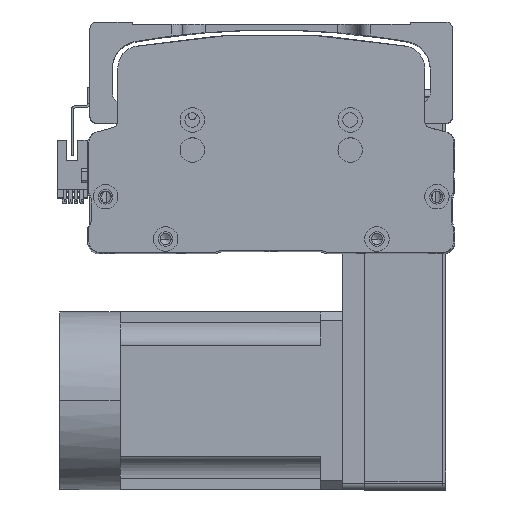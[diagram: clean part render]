
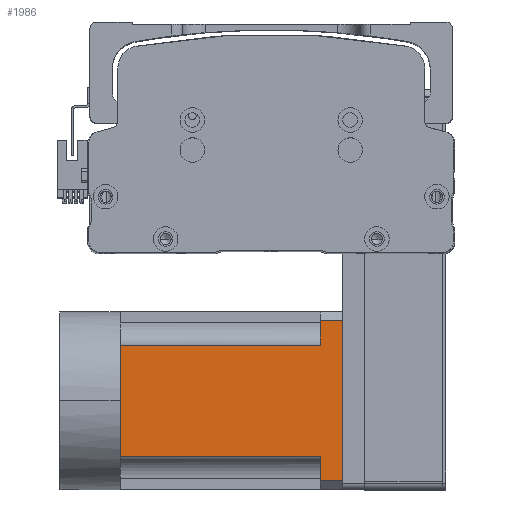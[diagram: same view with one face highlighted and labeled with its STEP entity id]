
A CAD part, top view. The second image highlights one B-rep face of the part: STEP entity #1986.
In plain terms, the highlighted planar face has unit normal (0, 0, 1) as drawn and (0, 0, -1) by its records, which use the part's own axes.
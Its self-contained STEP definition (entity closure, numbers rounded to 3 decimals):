
#1986 = ADVANCED_FACE ( 'NONE', ( #49239 ), #44260, .T. ) ;
#2054 = DIRECTION ( 'NONE',  ( -1., 0., 0. ) ) ;
#2488 = VERTEX_POINT ( 'NONE', #36548 ) ;
#2693 = CARTESIAN_POINT ( 'NONE',  ( 36., 90., -40. ) ) ;
#2900 = CARTESIAN_POINT ( 'NONE',  ( 25., 90., -40. ) ) ;
#2927 = CARTESIAN_POINT ( 'NONE',  ( 25., -27., -40. ) ) ;
#3129 = LINE ( 'NONE', #46933, #16787 ) ;
#3161 = ORIENTED_EDGE ( 'NONE', *, *, #42011, .T. ) ;
#4150 = CARTESIAN_POINT ( 'NONE',  ( -25., 90., -40. ) ) ;
#4786 = CARTESIAN_POINT ( 'NONE',  ( 36., 100., -40. ) ) ;
#7196 = DIRECTION ( 'NONE',  ( 0., 1., 0. ) ) ;
#7293 = CARTESIAN_POINT ( 'NONE',  ( -40., -27., -40. ) ) ;
#8160 = CARTESIAN_POINT ( 'NONE',  ( -40., 0., -40. ) ) ;
#8181 = ORIENTED_EDGE ( 'NONE', *, *, #38880, .T. ) ;
#8211 = LINE ( 'NONE', #34327, #19005 ) ;
#8631 = VERTEX_POINT ( 'NONE', #46527 ) ;
#8923 = VERTEX_POINT ( 'NONE', #2900 ) ;
#10522 = LINE ( 'NONE', #39936, #36535 ) ;
#11747 = VERTEX_POINT ( 'NONE', #4150 ) ;
#12002 = VECTOR ( 'NONE', #13868, 1000. ) ;
#13868 = DIRECTION ( 'NONE',  ( -1., 0., 0. ) ) ;
#14566 = ORIENTED_EDGE ( 'NONE', *, *, #15483, .T. ) ;
#15459 = ORIENTED_EDGE ( 'NONE', *, *, #35651, .T. ) ;
#15483 = EDGE_CURVE ( 'NONE', #11747, #33637, #57452, .T. ) ;
#15915 = CARTESIAN_POINT ( 'NONE',  ( -40., 90., -40. ) ) ;
#16787 = VECTOR ( 'NONE', #37622, 1000. ) ;
#17589 = DIRECTION ( 'NONE',  ( 0., 1., 0. ) ) ;
#18623 = ORIENTED_EDGE ( 'NONE', *, *, #33991, .T. ) ;
#18821 = EDGE_CURVE ( 'NONE', #41345, #44363, #10522, .T. ) ;
#19005 = VECTOR ( 'NONE', #2054, 1000. ) ;
#20517 = EDGE_CURVE ( 'NONE', #41345, #23004, #3129, .T. ) ;
#22319 = ORIENTED_EDGE ( 'NONE', *, *, #37449, .T. ) ;
#22830 = LINE ( 'NONE', #46250, #12002 ) ;
#22933 = AXIS2_PLACEMENT_3D ( 'NONE', #7293, #53582, #25842 ) ;
#23004 = VERTEX_POINT ( 'NONE', #2693 ) ;
#23861 = ORIENTED_EDGE ( 'NONE', *, *, #18821, .F. ) ;
#25361 = CARTESIAN_POINT ( 'NONE',  ( -36., 100., -40. ) ) ;
#25551 = CARTESIAN_POINT ( 'NONE',  ( -36., -27., -40. ) ) ;
#25842 = DIRECTION ( 'NONE',  ( -1., 0., 0. ) ) ;
#26691 = CARTESIAN_POINT ( 'NONE',  ( -25., -27., -40. ) ) ;
#27128 = LINE ( 'NONE', #2927, #59679 ) ;
#28879 = LINE ( 'NONE', #26691, #52057 ) ;
#30990 = DIRECTION ( 'NONE',  ( -1., 0., 0. ) ) ;
#33637 = VERTEX_POINT ( 'NONE', #46548 ) ;
#33991 = EDGE_CURVE ( 'NONE', #8923, #49027, #27128, .T. ) ;
#34327 = CARTESIAN_POINT ( 'NONE',  ( -40., 0., -40. ) ) ;
#34705 = EDGE_LOOP ( 'NONE', ( #23861, #39911, #42419, #18623, #15459, #3161, #22319, #14566, #8181 ) ) ;
#35651 = EDGE_CURVE ( 'NONE', #49027, #8631, #41495, .T. ) ;
#36535 = VECTOR ( 'NONE', #58327, 1000. ) ;
#36548 = CARTESIAN_POINT ( 'NONE',  ( -25., 0., -40. ) ) ;
#37449 = EDGE_CURVE ( 'NONE', #2488, #11747, #28879, .T. ) ;
#37622 = DIRECTION ( 'NONE',  ( 0., -1., 0. ) ) ;
#37878 = CARTESIAN_POINT ( 'NONE',  ( 25., 0., -40. ) ) ;
#38104 = VECTOR ( 'NONE', #7196, 1000. ) ;
#38880 = EDGE_CURVE ( 'NONE', #33637, #44363, #50436, .T. ) ;
#39911 = ORIENTED_EDGE ( 'NONE', *, *, #20517, .T. ) ;
#39936 = CARTESIAN_POINT ( 'NONE',  ( -40., 100., -40. ) ) ;
#40810 = EDGE_CURVE ( 'NONE', #23004, #8923, #22830, .T. ) ;
#41345 = VERTEX_POINT ( 'NONE', #4786 ) ;
#41495 = LINE ( 'NONE', #8160, #53824 ) ;
#42011 = EDGE_CURVE ( 'NONE', #8631, #2488, #8211, .T. ) ;
#42419 = ORIENTED_EDGE ( 'NONE', *, *, #40810, .T. ) ;
#44260 = PLANE ( 'NONE',  #22933 ) ;
#44363 = VERTEX_POINT ( 'NONE', #25361 ) ;
#44493 = DIRECTION ( 'NONE',  ( 0., -1., 0. ) ) ;
#46250 = CARTESIAN_POINT ( 'NONE',  ( -40., 90., -40. ) ) ;
#46527 = CARTESIAN_POINT ( 'NONE',  ( 0., 0., -40. ) ) ;
#46548 = CARTESIAN_POINT ( 'NONE',  ( -36., 90., -40. ) ) ;
#46933 = CARTESIAN_POINT ( 'NONE',  ( 36., -27., -40. ) ) ;
#48263 = DIRECTION ( 'NONE',  ( -1., 0., 0. ) ) ;
#49027 = VERTEX_POINT ( 'NONE', #37878 ) ;
#49239 = FACE_OUTER_BOUND ( 'NONE', #34705, .T. ) ;
#50436 = LINE ( 'NONE', #25551, #38104 ) ;
#52057 = VECTOR ( 'NONE', #17589, 1000. ) ;
#53582 = DIRECTION ( 'NONE',  ( 0., 0., -1. ) ) ;
#53824 = VECTOR ( 'NONE', #30990, 1000. ) ;
#57452 = LINE ( 'NONE', #15915, #58874 ) ;
#58327 = DIRECTION ( 'NONE',  ( -1., 0., 0. ) ) ;
#58874 = VECTOR ( 'NONE', #48263, 1000. ) ;
#59679 = VECTOR ( 'NONE', #44493, 1000. ) ;
